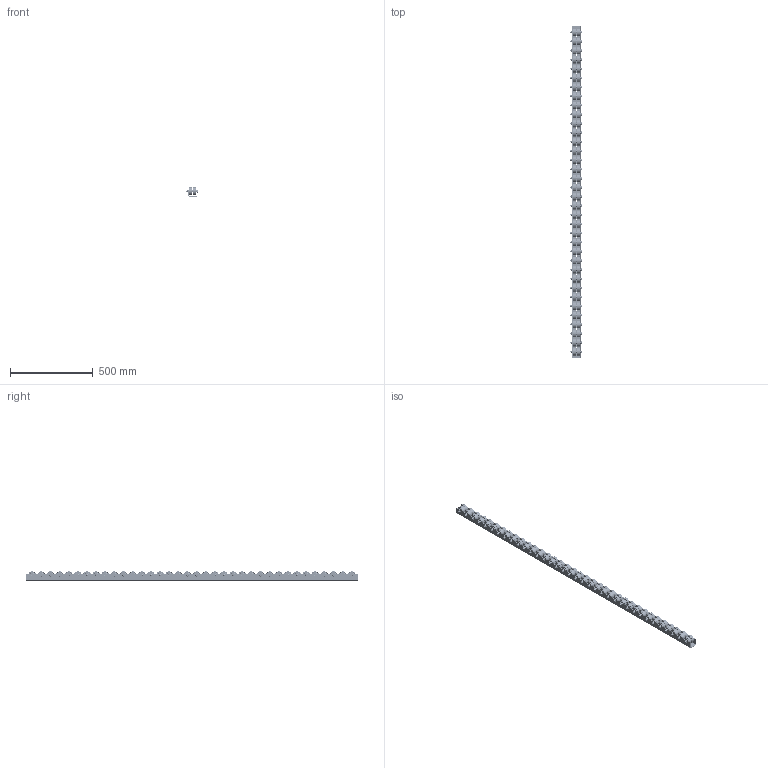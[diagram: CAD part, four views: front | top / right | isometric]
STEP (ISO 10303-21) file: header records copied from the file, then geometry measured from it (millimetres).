
FILE_DESCRIPTION( ( 'Unknown' ), '1' );
FILE_NAME( 'D:/Construktor/Listwy rolkowe 2015/Listwa T640/Listwa T640.stp', 'Unknown', ( 'Unknown' ), ( 'Unknown' ), 'PSStep 17.0.49', 'Unknown', ' ' );
FILE_SCHEMA( ( 'AUTOMOTIVE_DESIGN { 1 0 10303 214 1 1 1 1 }' ) );
Length unit declared in the file: millimetre
Products named in the file (11): Assem1; DIN_931_M8x35; DIN_931_M8x35-oa0; DIN_931_M8x35-oa1; Nut_DIN_980_M_M8_v10.50; Ceownik T640; 620 rolka; 620 rolka-oa2; 620 rolka-oa3; 620 rolka-oa4; 620 rolka-oa5
Assembly tree (145 placements, depth 2):
  Assem1
    DIN_931_M8x35  x34
    DIN_931_M8x35-oa0
    DIN_931_M8x35-oa1
    Nut_DIN_980_M_M8_v10.50  x36
    Ceownik T640
    620 rolka  x68
    620 rolka-oa2
    620 rolka-oa3
    620 rolka-oa4
    620 rolka-oa5
Bounding box: 70.3 x 2000 x 55.99 mm (x, y, z)
Volume: 1928574 mm3; surface area: 1277153.5 mm2
Topology: 145 solids, 145 shells, 3740 faces, 7560 edges, 4758 vertices
Faces by surface type: plane 1378, cylinder 958, torus 864, cone 540
Full cylindrical faces by diameter (mm): 6.466 x36, 6.647 x36, 6.697 x36, 8 x72, 8.2 x90, 8.3 x72, 8.4 x36, 11.63 x36, 12.5 x36, 12.6 x144, 29.5 x144, 43.6 x144, 48 x72
Entity records: 12622 total; most frequent: CARTESIAN_POINT 1809, DIRECTION 1792, ORIENTED_EDGE 1028, AXIS2_PLACEMENT_3D 861, EDGE_LOOP 774, FACE_OUTER_BOUND 533, EDGE_CURVE 514, VERTEX_POINT 454
